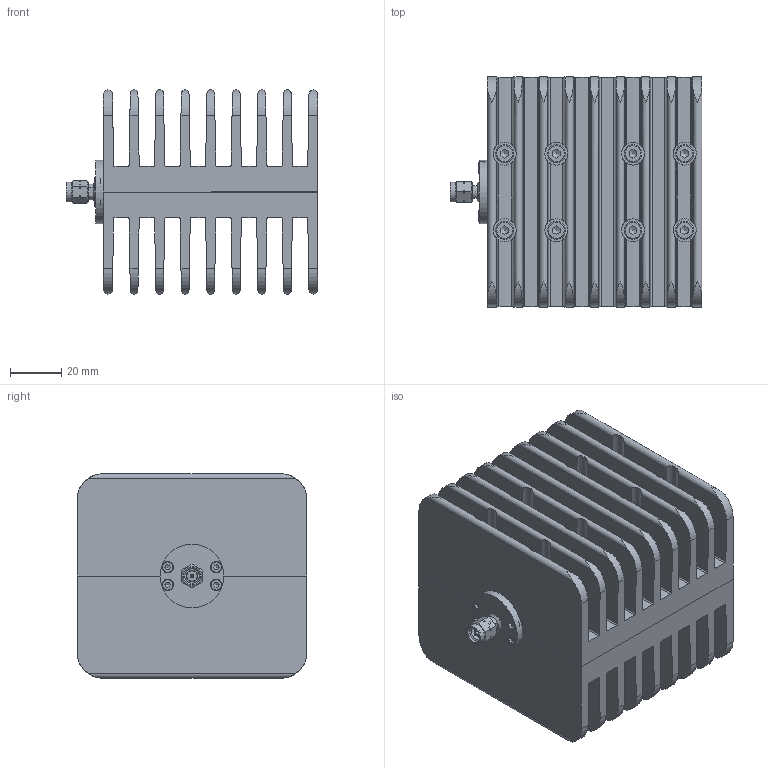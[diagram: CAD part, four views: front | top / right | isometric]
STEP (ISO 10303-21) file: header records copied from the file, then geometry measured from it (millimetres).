
FILE_DESCRIPTION(('STEP AP203'), '1');
FILE_NAME('ÏÐ1-24 SMAM', '', ('UNSPECIFIED'), ('UNSPECIFIED'), 'ASCON STEP Converter 1.6', 'ASCON Math Kernel', '');
FILE_SCHEMA(('CONFIG_CONTROL_DESIGN'));
Length unit declared in the file: millimetre
Assembly tree (21 placements, depth 3):
  (unnamed)
    (unnamed)
    (unnamed)
    (unnamed)
    (unnamed)
      (unnamed)
      (unnamed)
      (unnamed)
      (unnamed)
      (unnamed)
    (unnamed)  x8
    (unnamed)  x4
Bounding box: 98.65 x 90 x 80 mm (x, y, z)
Volume: 316879.9 mm3; surface area: 141765.8 mm2
Topology: 20 solids, 20 shells, 528 faces, 1370 edges, 907 vertices
Faces by surface type: plane 259, cylinder 204, cone 41, torus 24
Full cylindrical faces by diameter (mm): 0.5 x1, 0.8 x1, 0.927 x1, 1.17 x1, 1.27 x1, 2.013 x4, 2.5 x8, 3.242 x12, 3.8 x4, 4 x8, 4.1 x2, 4.5 x12, 4.6 x1, 5.1 x1, 5.188 x1, 5.68 x1, 6.6 x4, 6.68 x1, 7 x8, 7.1 x1, 7.7 x1, 8 x1, 9 x8, 25 x1
Entity records: 20474 total; most frequent: CARTESIAN_POINT 7578, ORIENTED_EDGE 1880, DIRECTION 1742, EDGE_CURVE 940, VERTEX_POINT 686, AXIS2_PLACEMENT_3D 654, EDGE_LOOP 532, LINE 434
